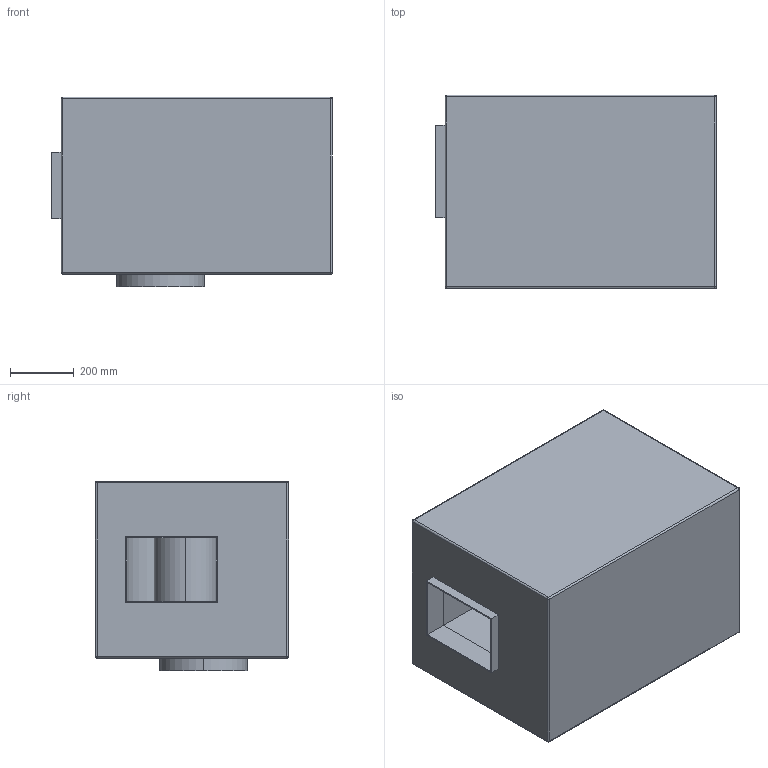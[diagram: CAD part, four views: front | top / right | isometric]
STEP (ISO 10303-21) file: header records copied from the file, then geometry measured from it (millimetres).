
FILE_DESCRIPTION(('STEP AP214'),'1');
FILE_NAME('fan_sptr000118_h.stp','2017-03-31T12:38:34',('TraceParts'),('TraceParts S.A.'),'Spatial InterOp 3D',' ',' ');
FILE_SCHEMA(('automotive_design'));
Length unit declared in the file: millimetre
Products named in the file (1): fan_sptr000118_h
Bounding box: 880 x 605 x 594 mm (x, y, z)
Volume: 107788998.2 mm3; surface area: 6214919.4 mm2
Topology: 1 solids, 1 shells, 145 faces, 377 edges, 230 vertices
Faces by surface type: plane 82, cylinder 51, sphere 8, torus 4
Entity records: 5567 total; most frequent: DIRECTION 801, CARTESIAN_POINT 745, ORIENTED_EDGE 738, EDGE_CURVE 369, AXIS2_PLACEMENT_3D 286, VERTEX_POINT 230, LINE 229, VECTOR 229
